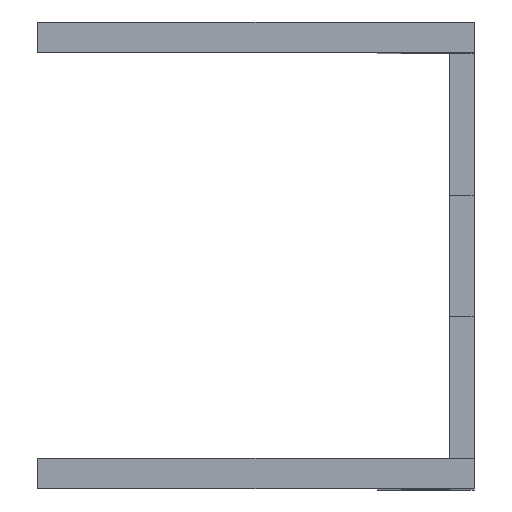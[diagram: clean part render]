
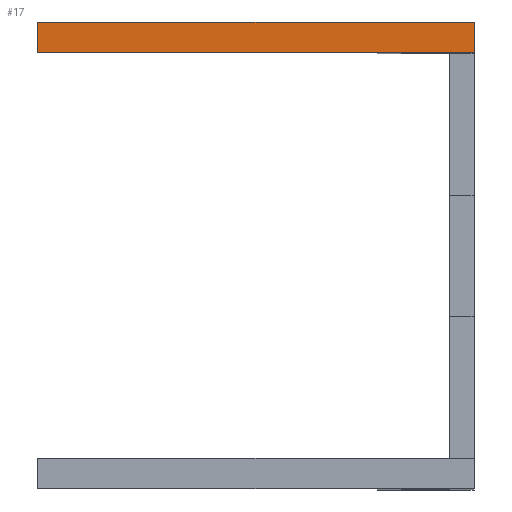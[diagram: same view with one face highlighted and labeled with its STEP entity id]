
A CAD part, top view. The second image highlights one B-rep face of the part: STEP entity #17.
In plain terms, the highlighted planar face has unit normal (0, 0, 1).
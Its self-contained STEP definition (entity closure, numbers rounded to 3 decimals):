
#17 = ADVANCED_FACE('',(#18),#32,.T.);
#18 = FACE_BOUND('',#19,.T.);
#19 = EDGE_LOOP('',(#20,#55,#83,#111));
#20 = ORIENTED_EDGE('',*,*,#21,.T.);
#21 = EDGE_CURVE('',#22,#24,#26,.T.);
#22 = VERTEX_POINT('',#23);
#23 = CARTESIAN_POINT('',(-32.,38.5,9.));
#24 = VERTEX_POINT('',#25);
#25 = CARTESIAN_POINT('',(-32.,33.5,9.));
#26 = SURFACE_CURVE('',#27,(#31,#43),.PCURVE_S1.);
#27 = LINE('',#28,#29);
#28 = CARTESIAN_POINT('',(-32.,38.5,9.));
#29 = VECTOR('',#30,1.);
#30 = DIRECTION('',(0.,-1.,0.));
#31 = PCURVE('',#32,#37);
#32 = PLANE('',#33);
#33 = AXIS2_PLACEMENT_3D('',#34,#35,#36);
#34 = CARTESIAN_POINT('',(-32.,38.5,9.));
#35 = DIRECTION('',(-0.,0.,1.));
#36 = DIRECTION('',(1.,0.,0.));
#37 = DEFINITIONAL_REPRESENTATION('',(#38),#42);
#38 = LINE('',#39,#40);
#39 = CARTESIAN_POINT('',(0.,0.));
#40 = VECTOR('',#41,1.);
#41 = DIRECTION('',(0.,-1.));
#42 = ( GEOMETRIC_REPRESENTATION_CONTEXT(2) 
PARAMETRIC_REPRESENTATION_CONTEXT() REPRESENTATION_CONTEXT('2D SPACE',''
  ) );
#43 = PCURVE('',#44,#49);
#44 = PLANE('',#45);
#45 = AXIS2_PLACEMENT_3D('',#46,#47,#48);
#46 = CARTESIAN_POINT('',(-32.,38.5,-11.));
#47 = DIRECTION('',(-1.,0.,0.));
#48 = DIRECTION('',(0.,0.,1.));
#49 = DEFINITIONAL_REPRESENTATION('',(#50),#54);
#50 = LINE('',#51,#52);
#51 = CARTESIAN_POINT('',(20.,0.));
#52 = VECTOR('',#53,1.);
#53 = DIRECTION('',(0.,-1.));
#54 = ( GEOMETRIC_REPRESENTATION_CONTEXT(2) 
PARAMETRIC_REPRESENTATION_CONTEXT() REPRESENTATION_CONTEXT('2D SPACE',''
  ) );
#55 = ORIENTED_EDGE('',*,*,#56,.T.);
#56 = EDGE_CURVE('',#24,#57,#59,.T.);
#57 = VERTEX_POINT('',#58);
#58 = CARTESIAN_POINT('',(40.,33.5,9.));
#59 = SURFACE_CURVE('',#60,(#64,#71),.PCURVE_S1.);
#60 = LINE('',#61,#62);
#61 = CARTESIAN_POINT('',(-32.,33.5,9.));
#62 = VECTOR('',#63,1.);
#63 = DIRECTION('',(1.,0.,0.));
#64 = PCURVE('',#32,#65);
#65 = DEFINITIONAL_REPRESENTATION('',(#66),#70);
#66 = LINE('',#67,#68);
#67 = CARTESIAN_POINT('',(0.,-5.));
#68 = VECTOR('',#69,1.);
#69 = DIRECTION('',(1.,0.));
#70 = ( GEOMETRIC_REPRESENTATION_CONTEXT(2) 
PARAMETRIC_REPRESENTATION_CONTEXT() REPRESENTATION_CONTEXT('2D SPACE',''
  ) );
#71 = PCURVE('',#72,#77);
#72 = PLANE('',#73);
#73 = AXIS2_PLACEMENT_3D('',#74,#75,#76);
#74 = CARTESIAN_POINT('',(4.,33.5,-1.));
#75 = DIRECTION('',(0.,1.,0.));
#76 = DIRECTION('',(0.,-0.,1.));
#77 = DEFINITIONAL_REPRESENTATION('',(#78),#82);
#78 = LINE('',#79,#80);
#79 = CARTESIAN_POINT('',(10.,-36.));
#80 = VECTOR('',#81,1.);
#81 = DIRECTION('',(0.,1.));
#82 = ( GEOMETRIC_REPRESENTATION_CONTEXT(2) 
PARAMETRIC_REPRESENTATION_CONTEXT() REPRESENTATION_CONTEXT('2D SPACE',''
  ) );
#83 = ORIENTED_EDGE('',*,*,#84,.F.);
#84 = EDGE_CURVE('',#85,#57,#87,.T.);
#85 = VERTEX_POINT('',#86);
#86 = CARTESIAN_POINT('',(40.,38.5,9.));
#87 = SURFACE_CURVE('',#88,(#92,#99),.PCURVE_S1.);
#88 = LINE('',#89,#90);
#89 = CARTESIAN_POINT('',(40.,38.5,9.));
#90 = VECTOR('',#91,1.);
#91 = DIRECTION('',(0.,-1.,0.));
#92 = PCURVE('',#32,#93);
#93 = DEFINITIONAL_REPRESENTATION('',(#94),#98);
#94 = LINE('',#95,#96);
#95 = CARTESIAN_POINT('',(72.,0.));
#96 = VECTOR('',#97,1.);
#97 = DIRECTION('',(0.,-1.));
#98 = ( GEOMETRIC_REPRESENTATION_CONTEXT(2) 
PARAMETRIC_REPRESENTATION_CONTEXT() REPRESENTATION_CONTEXT('2D SPACE',''
  ) );
#99 = PCURVE('',#100,#105);
#100 = PLANE('',#101);
#101 = AXIS2_PLACEMENT_3D('',#102,#103,#104);
#102 = CARTESIAN_POINT('',(40.,38.5,9.));
#103 = DIRECTION('',(1.,0.,0.));
#104 = DIRECTION('',(0.,0.,-1.));
#105 = DEFINITIONAL_REPRESENTATION('',(#106),#110);
#106 = LINE('',#107,#108);
#107 = CARTESIAN_POINT('',(0.,0.));
#108 = VECTOR('',#109,1.);
#109 = DIRECTION('',(0.,-1.));
#110 = ( GEOMETRIC_REPRESENTATION_CONTEXT(2) 
PARAMETRIC_REPRESENTATION_CONTEXT() REPRESENTATION_CONTEXT('2D SPACE',''
  ) );
#111 = ORIENTED_EDGE('',*,*,#112,.T.);
#112 = EDGE_CURVE('',#85,#22,#113,.T.);
#113 = SURFACE_CURVE('',#114,(#118,#125),.PCURVE_S1.);
#114 = LINE('',#115,#116);
#115 = CARTESIAN_POINT('',(40.,38.5,9.));
#116 = VECTOR('',#117,1.);
#117 = DIRECTION('',(-1.,0.,0.));
#118 = PCURVE('',#32,#119);
#119 = DEFINITIONAL_REPRESENTATION('',(#120),#124);
#120 = LINE('',#121,#122);
#121 = CARTESIAN_POINT('',(72.,0.));
#122 = VECTOR('',#123,1.);
#123 = DIRECTION('',(-1.,0.));
#124 = ( GEOMETRIC_REPRESENTATION_CONTEXT(2) 
PARAMETRIC_REPRESENTATION_CONTEXT() REPRESENTATION_CONTEXT('2D SPACE',''
  ) );
#125 = PCURVE('',#126,#131);
#126 = PLANE('',#127);
#127 = AXIS2_PLACEMENT_3D('',#128,#129,#130);
#128 = CARTESIAN_POINT('',(4.,38.5,-1.));
#129 = DIRECTION('',(0.,1.,0.));
#130 = DIRECTION('',(0.,-0.,1.));
#131 = DEFINITIONAL_REPRESENTATION('',(#132),#136);
#132 = LINE('',#133,#134);
#133 = CARTESIAN_POINT('',(10.,36.));
#134 = VECTOR('',#135,1.);
#135 = DIRECTION('',(0.,-1.));
#136 = ( GEOMETRIC_REPRESENTATION_CONTEXT(2) 
PARAMETRIC_REPRESENTATION_CONTEXT() REPRESENTATION_CONTEXT('2D SPACE',''
  ) );
